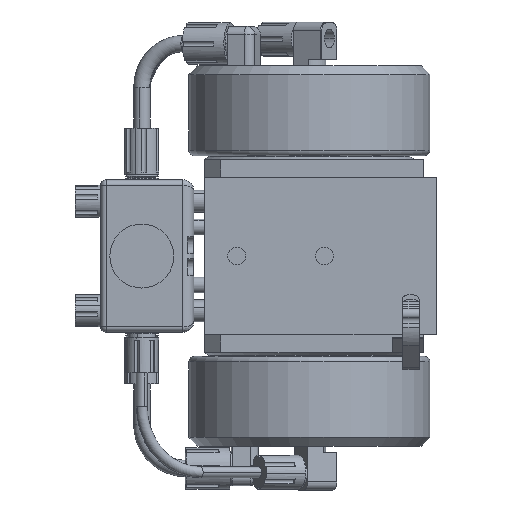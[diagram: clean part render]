
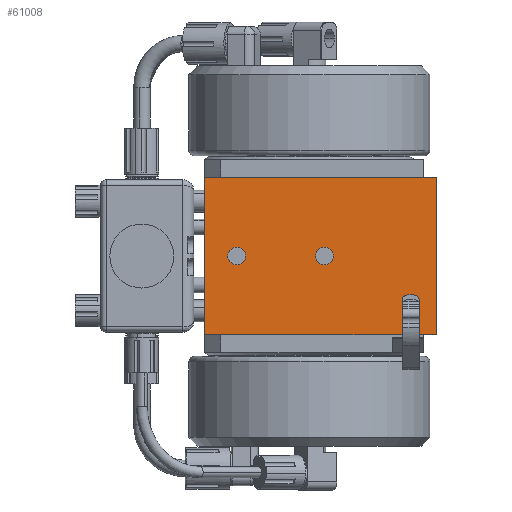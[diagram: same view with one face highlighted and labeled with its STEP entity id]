
A CAD part, front view. The second image highlights one B-rep face of the part: STEP entity #61008.
In plain terms, the highlighted planar face has unit normal (0, -1, 0).
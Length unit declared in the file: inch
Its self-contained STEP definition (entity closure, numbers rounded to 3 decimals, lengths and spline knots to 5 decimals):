
#231 = DIRECTION ( 'NONE',  ( 0., -1., 0. ) ) ;
#241 = CARTESIAN_POINT ( 'NONE',  ( -2.898, -3.023, 1.795 ) ) ;
#243 = PLANE ( 'NONE',  #60586 ) ;
#244 = DIRECTION ( 'NONE',  ( 0., 0., -1. ) ) ;
#517 = FACE_BOUND ( 'NONE', #64265, .T. ) ;
#518 = FACE_OUTER_BOUND ( 'NONE', #64266, .T. ) ;
#521 = FACE_BOUND ( 'NONE', #64277, .T. ) ;
#3769 = LINE ( 'NONE', #21846, #3771 ) ;
#3771 = VECTOR ( 'NONE', #21844, 39.37008 ) ;
#4890 = AXIS2_PLACEMENT_3D ( 'NONE', #14165, #14166, #14167 ) ;
#4907 = AXIS2_PLACEMENT_3D ( 'NONE', #14261, #14262, #14263 ) ;
#5447 = AXIS2_PLACEMENT_3D ( 'NONE', #26594, #26595, #26596 ) ;
#5448 = AXIS2_PLACEMENT_3D ( 'NONE', #26603, #26605, #26606 ) ;
#5463 = AXIS2_PLACEMENT_3D ( 'NONE', #25971, #25972, #25973 ) ;
#5464 = AXIS2_PLACEMENT_3D ( 'NONE', #25982, #25983, #25984 ) ;
#7697 = LINE ( 'NONE', #26548, #7717 ) ;
#7706 = LINE ( 'NONE', #26570, #7713 ) ;
#7713 = VECTOR ( 'NONE', #26573, 39.37008 ) ;
#7717 = VECTOR ( 'NONE', #26574, 39.37008 ) ;
#7729 = CIRCLE ( 'NONE', #5447, 0.203 ) ;
#7737 = CIRCLE ( 'NONE', #5448, 0.203 ) ;
#7740 = LINE ( 'NONE', #26598, #7748 ) ;
#7748 = VECTOR ( 'NONE', #26607, 39.37008 ) ;
#7782 = CIRCLE ( 'NONE', #5463, 0.125 ) ;
#7787 = CIRCLE ( 'NONE', #5464, 0.125 ) ;
#7791 = LINE ( 'NONE', #25976, #7797 ) ;
#7797 = VECTOR ( 'NONE', #25977, 39.37008 ) ;
#7798 = LINE ( 'NONE', #25981, #7808 ) ;
#7803 = LINE ( 'NONE', #25989, #7814 ) ;
#7808 = VECTOR ( 'NONE', #25986, 39.37008 ) ;
#7814 = VECTOR ( 'NONE', #25985, 39.37008 ) ;
#7823 = LINE ( 'NONE', #25993, #7827 ) ;
#7827 = VECTOR ( 'NONE', #25988, 39.37008 ) ;
#9415 = CIRCLE ( 'NONE', #4890, 0.203 ) ;
#9478 = CIRCLE ( 'NONE', #4907, 0.203 ) ;
#14165 = CARTESIAN_POINT ( 'NONE',  ( -1.658, -3.023, 0. ) ) ;
#14166 = DIRECTION ( 'NONE',  ( 0., 1., 0. ) ) ;
#14167 = DIRECTION ( 'NONE',  ( 0., 0., 1. ) ) ;
#14261 = CARTESIAN_POINT ( 'NONE',  ( 0.342, -3.023, 0. ) ) ;
#14262 = DIRECTION ( 'NONE',  ( 0., 1., 0. ) ) ;
#14263 = DIRECTION ( 'NONE',  ( 0., 0., 1. ) ) ;
#16400 = ORIENTED_EDGE ( 'NONE', *, *, #18068, .T. ) ;
#16401 = ORIENTED_EDGE ( 'NONE', *, *, #63357, .T. ) ;
#16402 = ORIENTED_EDGE ( 'NONE', *, *, #18070, .T. ) ;
#16403 = ORIENTED_EDGE ( 'NONE', *, *, #63317, .T. ) ;
#16404 = ORIENTED_EDGE ( 'NONE', *, *, #18072, .T. ) ;
#16405 = ORIENTED_EDGE ( 'NONE', *, *, #18061, .F. ) ;
#16406 = ORIENTED_EDGE ( 'NONE', *, *, #18062, .T. ) ;
#16407 = ORIENTED_EDGE ( 'NONE', *, *, #18088, .T. ) ;
#16408 = ORIENTED_EDGE ( 'NONE', *, *, #18095, .T. ) ;
#16409 = ORIENTED_EDGE ( 'NONE', *, *, #18093, .T. ) ;
#16410 = ORIENTED_EDGE ( 'NONE', *, *, #17750, .T. ) ;
#16411 = ORIENTED_EDGE ( 'NONE', *, *, #18091, .F. ) ;
#16412 = ORIENTED_EDGE ( 'NONE', *, *, #18101, .F. ) ;
#16413 = ORIENTED_EDGE ( 'NONE', *, *, #18097, .F. ) ;
#17750 = EDGE_CURVE ( 'NONE', #34282, #34285, #3769, .T. ) ;
#18061 = EDGE_CURVE ( 'NONE', #34267, #34265, #7706, .T. ) ;
#18062 = EDGE_CURVE ( 'NONE', #34267, #34262, #7697, .T. ) ;
#18068 = EDGE_CURVE ( 'NONE', #18283, #18291, #7729, .T. ) ;
#18070 = EDGE_CURVE ( 'NONE', #18255, #18256, #7737, .T. ) ;
#18072 = EDGE_CURVE ( 'NONE', #34268, #34265, #7740, .T. ) ;
#18088 = EDGE_CURVE ( 'NONE', #34262, #34261, #7782, .T. ) ;
#18091 = EDGE_CURVE ( 'NONE', #34263, #34285, #7791, .T. ) ;
#18093 = EDGE_CURVE ( 'NONE', #34260, #34282, #7787, .T. ) ;
#18095 = EDGE_CURVE ( 'NONE', #34261, #34260, #7798, .T. ) ;
#18097 = EDGE_CURVE ( 'NONE', #34268, #34259, #7803, .T. ) ;
#18101 = EDGE_CURVE ( 'NONE', #34259, #34263, #7823, .T. ) ;
#18255 = VERTEX_POINT ( 'NONE', #26080 ) ;
#18256 = VERTEX_POINT ( 'NONE', #26081 ) ;
#18283 = VERTEX_POINT ( 'NONE', #26114 ) ;
#18291 = VERTEX_POINT ( 'NONE', #26127 ) ;
#21844 = DIRECTION ( 'NONE',  ( 0., 0., -1. ) ) ;
#21846 = CARTESIAN_POINT ( 'NONE',  ( 2.505, -3.023, -1.014 ) ) ;
#25971 = CARTESIAN_POINT ( 'NONE',  ( 2.244, -3.023, -1.014 ) ) ;
#25972 = DIRECTION ( 'NONE',  ( 0., 1., 0. ) ) ;
#25973 = DIRECTION ( 'NONE',  ( 0., 0., 1. ) ) ;
#25976 = CARTESIAN_POINT ( 'NONE',  ( -2.898, -3.023, -1.795 ) ) ;
#25977 = DIRECTION ( 'NONE',  ( -1., 0., 0. ) ) ;
#25981 = CARTESIAN_POINT ( 'NONE',  ( 2.244, -3.023, -0.889 ) ) ;
#25982 = CARTESIAN_POINT ( 'NONE',  ( 2.38, -3.023, -1.014 ) ) ;
#25983 = DIRECTION ( 'NONE',  ( 0., 1., 0. ) ) ;
#25984 = DIRECTION ( 'NONE',  ( 0., 0., 1. ) ) ;
#25985 = DIRECTION ( 'NONE',  ( 1., 0., 0. ) ) ;
#25986 = DIRECTION ( 'NONE',  ( 1., 0., 0. ) ) ;
#25988 = DIRECTION ( 'NONE',  ( 0., 0., -1. ) ) ;
#25989 = CARTESIAN_POINT ( 'NONE',  ( -2.898, -3.023, 1.795 ) ) ;
#25993 = CARTESIAN_POINT ( 'NONE',  ( 2.912, -3.023, 1.795 ) ) ;
#26080 = CARTESIAN_POINT ( 'NONE',  ( -1.658, -3.023, 0.203 ) ) ;
#26081 = CARTESIAN_POINT ( 'NONE',  ( -1.658, -3.023, -0.203 ) ) ;
#26114 = CARTESIAN_POINT ( 'NONE',  ( 0.342, -3.023, 0.203 ) ) ;
#26127 = CARTESIAN_POINT ( 'NONE',  ( 0.342, -3.023, -0.203 ) ) ;
#26548 = CARTESIAN_POINT ( 'NONE',  ( 2.119, -3.023, -1.795 ) ) ;
#26570 = CARTESIAN_POINT ( 'NONE',  ( -2.898, -3.023, -1.795 ) ) ;
#26573 = DIRECTION ( 'NONE',  ( -1., 0., 0. ) ) ;
#26574 = DIRECTION ( 'NONE',  ( 0., 0., 1. ) ) ;
#26594 = CARTESIAN_POINT ( 'NONE',  ( 0.342, -3.023, 0. ) ) ;
#26595 = DIRECTION ( 'NONE',  ( 0., 1., 0. ) ) ;
#26596 = DIRECTION ( 'NONE',  ( 0., 0., 1. ) ) ;
#26598 = CARTESIAN_POINT ( 'NONE',  ( -2.398, -3.023, 1.795 ) ) ;
#26603 = CARTESIAN_POINT ( 'NONE',  ( -1.658, -3.023, 0. ) ) ;
#26605 = DIRECTION ( 'NONE',  ( 0., 1., 0. ) ) ;
#26606 = DIRECTION ( 'NONE',  ( 0., 0., 1. ) ) ;
#26607 = DIRECTION ( 'NONE',  ( 0., 0., -1. ) ) ;
#32758 = CARTESIAN_POINT ( 'NONE',  ( 2.912, -3.023, 1.795 ) ) ;
#32759 = CARTESIAN_POINT ( 'NONE',  ( 2.38, -3.023, -0.889 ) ) ;
#32761 = CARTESIAN_POINT ( 'NONE',  ( 2.244, -3.023, -0.889 ) ) ;
#32763 = CARTESIAN_POINT ( 'NONE',  ( 2.119, -3.023, -1.014 ) ) ;
#32764 = CARTESIAN_POINT ( 'NONE',  ( 2.912, -3.023, -1.795 ) ) ;
#32768 = CARTESIAN_POINT ( 'NONE',  ( -2.398, -3.023, -1.795 ) ) ;
#32771 = CARTESIAN_POINT ( 'NONE',  ( 2.119, -3.023, -1.795 ) ) ;
#32773 = CARTESIAN_POINT ( 'NONE',  ( -2.398, -3.023, 1.795 ) ) ;
#32796 = CARTESIAN_POINT ( 'NONE',  ( 2.505, -3.023, -1.014 ) ) ;
#32801 = CARTESIAN_POINT ( 'NONE',  ( 2.505, -3.023, -1.795 ) ) ;
#34259 = VERTEX_POINT ( 'NONE', #32758 ) ;
#34260 = VERTEX_POINT ( 'NONE', #32759 ) ;
#34261 = VERTEX_POINT ( 'NONE', #32761 ) ;
#34262 = VERTEX_POINT ( 'NONE', #32763 ) ;
#34263 = VERTEX_POINT ( 'NONE', #32764 ) ;
#34265 = VERTEX_POINT ( 'NONE', #32768 ) ;
#34267 = VERTEX_POINT ( 'NONE', #32771 ) ;
#34268 = VERTEX_POINT ( 'NONE', #32773 ) ;
#34282 = VERTEX_POINT ( 'NONE', #32796 ) ;
#34285 = VERTEX_POINT ( 'NONE', #32801 ) ;
#60586 = AXIS2_PLACEMENT_3D ( 'NONE', #241, #231, #244 ) ;
#61008 = ADVANCED_FACE ( 'NONE', ( #517, #521, #518 ), #243, .T. ) ;
#63317 = EDGE_CURVE ( 'NONE', #18256, #18255, #9415, .T. ) ;
#63357 = EDGE_CURVE ( 'NONE', #18291, #18283, #9478, .T. ) ;
#64265 = EDGE_LOOP ( 'NONE', ( #16400, #16401 ) ) ;
#64266 = EDGE_LOOP ( 'NONE', ( #16404, #16405, #16406, #16407, #16408, #16409, #16410, #16411, #16412, #16413 ) ) ;
#64277 = EDGE_LOOP ( 'NONE', ( #16402, #16403 ) ) ;
